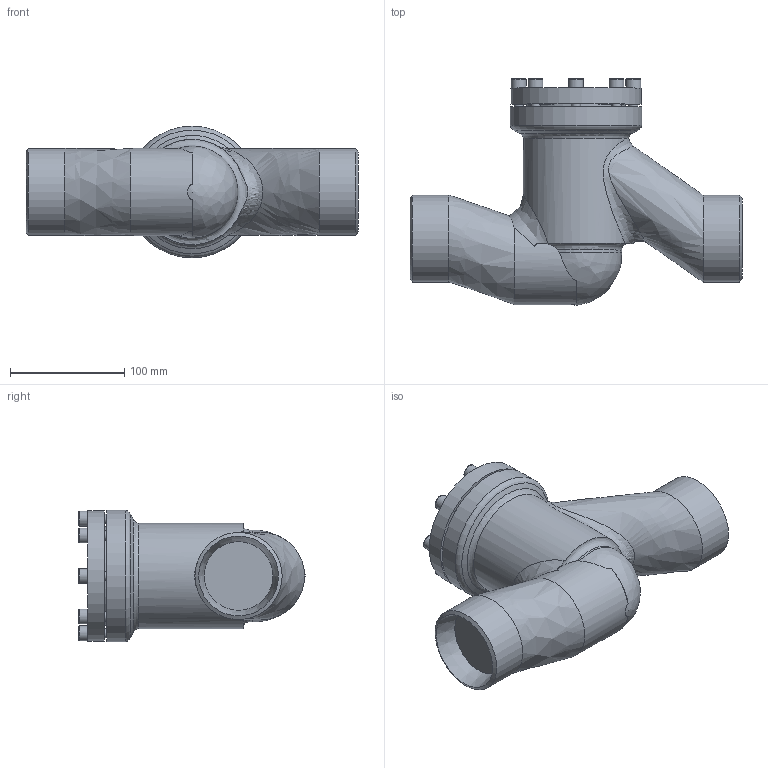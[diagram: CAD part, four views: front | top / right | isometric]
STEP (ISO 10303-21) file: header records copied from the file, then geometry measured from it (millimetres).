
FILE_DESCRIPTION((''),'2;1');
FILE_NAME('C:\Users\Lempe.Ha\Desktop\SS D AE 52G00-065 PS25.stp','2014-05-05T13:05:45',('Lempe.Ha'),(''),'Autodesk Inventor 2012','Autodesk Inventor 2012','');
FILE_SCHEMA(('AUTOMOTIVE_DESIGN { 1 0 10303 214 1 1 1 1 }'));
Length unit declared in the file: millimetre
Products named in the file (4): Baugruppe3; 16G00B17.5034004; Deckel; DIN 912 - ersetzt durch DIN EN ISO 4762 M8 x 25
Assembly tree (10 placements, depth 2):
  Baugruppe3
    16G00B17.5034004
    Deckel
    DIN 912 - ersetzt durch DIN EN ISO 4762 M8 x 25  x8
Bounding box: 290 x 197.7 x 115 mm (x, y, z)
Volume: 1518086.9 mm3; surface area: 205125.7 mm2
Topology: 10 solids, 10 shells, 201 faces, 454 edges, 286 vertices
Faces by surface type: plane 85, cylinder 49, cone 39, torus 21, bspline 7
Full cylindrical faces by diameter (mm): 6.647 x8, 8 x8, 9 x8, 13 x8, 65 x1, 68 x1, 69 x1, 70 x1, 75 x1, 76 x2, 76.1 x2, 80.333 x1, 86 x2, 114 x1, 115 x1
Entity records: 3246 total; most frequent: CARTESIAN_POINT 1258, DIRECTION 412, ORIENTED_EDGE 276, AXIS2_PLACEMENT_3D 200, EDGE_LOOP 184, EDGE_CURVE 138, VERTEX_POINT 122, CIRCLE 97
